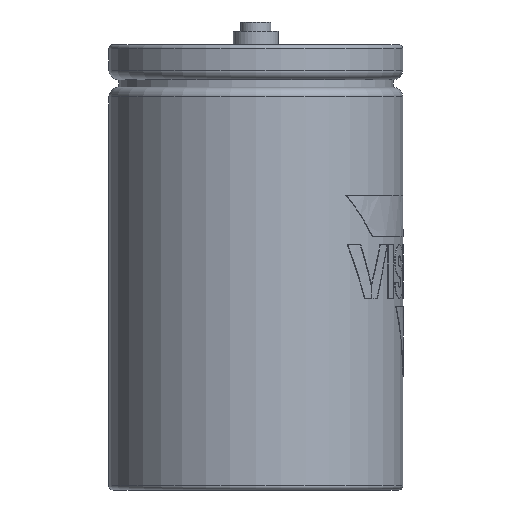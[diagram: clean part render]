
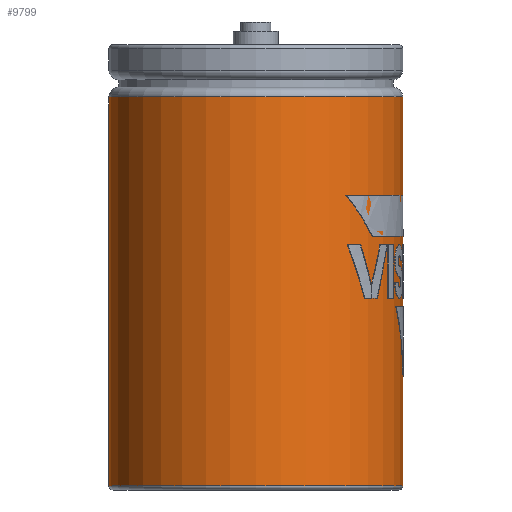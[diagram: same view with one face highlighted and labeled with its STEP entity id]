
A CAD part, left-side view. The second image highlights one B-rep face of the part: STEP entity #9799.
In plain terms, the highlighted cylindrical face has radius 38.2 mm (diameter 76.4 mm), a full revolution.
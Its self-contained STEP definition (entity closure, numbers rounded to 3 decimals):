
#9732 = TOROIDAL_SURFACE('',#9733,37.1,1.1);
#9733 = AXIS2_PLACEMENT_3D('',#9734,#9735,#9736);
#9734 = CARTESIAN_POINT('',(0.,0.,-113.6));
#9735 = DIRECTION('',(0.,0.,1.));
#9736 = DIRECTION('',(1.,0.,0.));
#9749 = VERTEX_POINT('',#9750);
#9750 = CARTESIAN_POINT('',(38.2,0.,-113.6));
#9772 = EDGE_CURVE('',#9749,#9749,#9773,.T.);
#9773 = SURFACE_CURVE('',#9774,(#9779,#9786),.PCURVE_S1.);
#9774 = CIRCLE('',#9775,38.2);
#9775 = AXIS2_PLACEMENT_3D('',#9776,#9777,#9778);
#9776 = CARTESIAN_POINT('',(0.,0.,-113.6));
#9777 = DIRECTION('',(0.,-0.,1.));
#9778 = DIRECTION('',(1.,0.,0.));
#9779 = PCURVE('',#9732,#9780);
#9780 = DEFINITIONAL_REPRESENTATION('',(#9781),#9785);
#9781 = LINE('',#9782,#9783);
#9782 = CARTESIAN_POINT('',(0.,6.283));
#9783 = VECTOR('',#9784,1.);
#9784 = DIRECTION('',(1.,0.));
#9785 = ( GEOMETRIC_REPRESENTATION_CONTEXT(2) 
PARAMETRIC_REPRESENTATION_CONTEXT() REPRESENTATION_CONTEXT('2D SPACE',''
  ) );
#9786 = PCURVE('',#9787,#9792);
#9787 = CYLINDRICAL_SURFACE('',#9788,38.2);
#9788 = AXIS2_PLACEMENT_3D('',#9789,#9790,#9791);
#9789 = CARTESIAN_POINT('',(0.,0.,-113.6));
#9790 = DIRECTION('',(0.,0.,1.));
#9791 = DIRECTION('',(1.,0.,0.));
#9792 = DEFINITIONAL_REPRESENTATION('',(#9793),#9797);
#9793 = LINE('',#9794,#9795);
#9794 = CARTESIAN_POINT('',(0.,0.));
#9795 = VECTOR('',#9796,1.);
#9796 = DIRECTION('',(1.,0.));
#9797 = ( GEOMETRIC_REPRESENTATION_CONTEXT(2) 
PARAMETRIC_REPRESENTATION_CONTEXT() REPRESENTATION_CONTEXT('2D SPACE',''
  ) );
#9799 = ADVANCED_FACE('',(#9800),#9787,.T.);
#9800 = FACE_BOUND('',#9801,.T.);
#9801 = EDGE_LOOP('',(#9802,#9803,#9826,#9853));
#9802 = ORIENTED_EDGE('',*,*,#9772,.T.);
#9803 = ORIENTED_EDGE('',*,*,#9804,.T.);
#9804 = EDGE_CURVE('',#9749,#9805,#9807,.T.);
#9805 = VERTEX_POINT('',#9806);
#9806 = CARTESIAN_POINT('',(38.2,0.,-12.5));
#9807 = SEAM_CURVE('',#9808,(#9812,#9819),.PCURVE_S1.);
#9808 = LINE('',#9809,#9810);
#9809 = CARTESIAN_POINT('',(38.2,0.,-113.6));
#9810 = VECTOR('',#9811,1.);
#9811 = DIRECTION('',(0.,0.,1.));
#9812 = PCURVE('',#9787,#9813);
#9813 = DEFINITIONAL_REPRESENTATION('',(#9814),#9818);
#9814 = LINE('',#9815,#9816);
#9815 = CARTESIAN_POINT('',(0.,0.));
#9816 = VECTOR('',#9817,1.);
#9817 = DIRECTION('',(0.,1.));
#9818 = ( GEOMETRIC_REPRESENTATION_CONTEXT(2) 
PARAMETRIC_REPRESENTATION_CONTEXT() REPRESENTATION_CONTEXT('2D SPACE',''
  ) );
#9819 = PCURVE('',#9787,#9820);
#9820 = DEFINITIONAL_REPRESENTATION('',(#9821),#9825);
#9821 = LINE('',#9822,#9823);
#9822 = CARTESIAN_POINT('',(6.283,0.));
#9823 = VECTOR('',#9824,1.);
#9824 = DIRECTION('',(0.,1.));
#9825 = ( GEOMETRIC_REPRESENTATION_CONTEXT(2) 
PARAMETRIC_REPRESENTATION_CONTEXT() REPRESENTATION_CONTEXT('2D SPACE',''
  ) );
#9826 = ORIENTED_EDGE('',*,*,#9827,.F.);
#9827 = EDGE_CURVE('',#9805,#9805,#9828,.T.);
#9828 = SURFACE_CURVE('',#9829,(#9834,#9841),.PCURVE_S1.);
#9829 = CIRCLE('',#9830,38.2);
#9830 = AXIS2_PLACEMENT_3D('',#9831,#9832,#9833);
#9831 = CARTESIAN_POINT('',(0.,0.,-12.5));
#9832 = DIRECTION('',(0.,-0.,1.));
#9833 = DIRECTION('',(1.,0.,0.));
#9834 = PCURVE('',#9787,#9835);
#9835 = DEFINITIONAL_REPRESENTATION('',(#9836),#9840);
#9836 = LINE('',#9837,#9838);
#9837 = CARTESIAN_POINT('',(0.,101.1));
#9838 = VECTOR('',#9839,1.);
#9839 = DIRECTION('',(1.,0.));
#9840 = ( GEOMETRIC_REPRESENTATION_CONTEXT(2) 
PARAMETRIC_REPRESENTATION_CONTEXT() REPRESENTATION_CONTEXT('2D SPACE',''
  ) );
#9841 = PCURVE('',#9842,#9847);
#9842 = TOROIDAL_SURFACE('',#9843,35.7,2.5);
#9843 = AXIS2_PLACEMENT_3D('',#9844,#9845,#9846);
#9844 = CARTESIAN_POINT('',(0.,0.,-12.5));
#9845 = DIRECTION('',(0.,0.,1.));
#9846 = DIRECTION('',(1.,0.,0.));
#9847 = DEFINITIONAL_REPRESENTATION('',(#9848),#9852);
#9848 = LINE('',#9849,#9850);
#9849 = CARTESIAN_POINT('',(0.,0.));
#9850 = VECTOR('',#9851,1.);
#9851 = DIRECTION('',(1.,0.));
#9852 = ( GEOMETRIC_REPRESENTATION_CONTEXT(2) 
PARAMETRIC_REPRESENTATION_CONTEXT() REPRESENTATION_CONTEXT('2D SPACE',''
  ) );
#9853 = ORIENTED_EDGE('',*,*,#9804,.F.);
